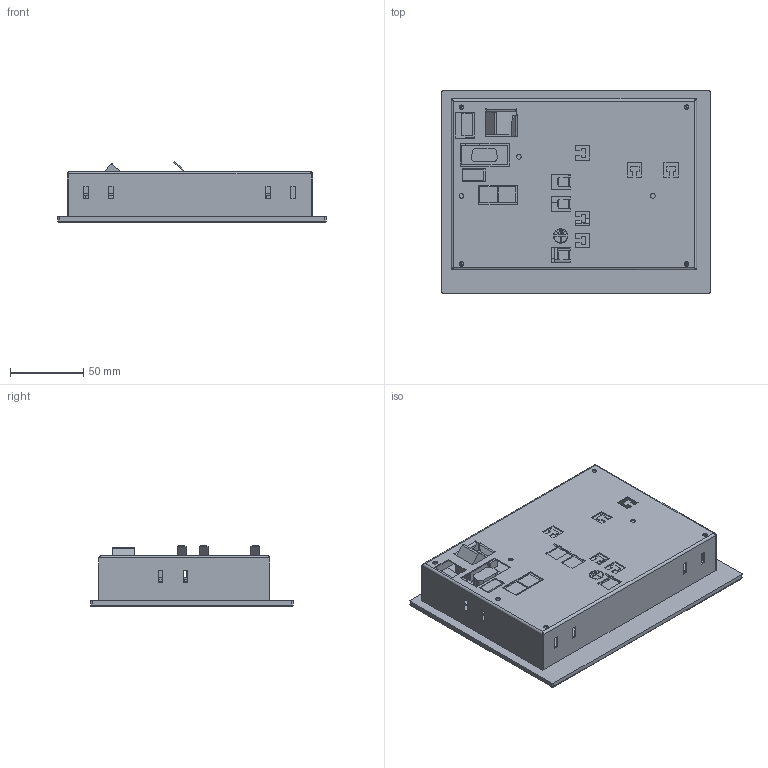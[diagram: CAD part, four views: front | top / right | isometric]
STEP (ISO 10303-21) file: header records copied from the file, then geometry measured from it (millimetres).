
FILE_DESCRIPTION (( 'STEP AP214' ), '1' );
FILE_NAME ('HZS732 support.STEP', '2016-06-01T09:09:51', ( 'SIGMATEK GmbH & Co KG' ), ( 'SIGMATEK GmbH & Co KG' ), 'SwSTEP 2.0', 'SolidWorks 2015', '' );
FILE_SCHEMA (( 'AUTOMOTIVE_DESIGN' ));
Length unit declared in the file: millimetre
Products named in the file (7): Gehäuse HZS7xx support; Front V2.0 HZS732-H; fhl_m3_8; 110802 support; HZS732 support; Display 7 Zoll Multi-Inno_MI0700S4T-3 V1.3_ohne Touchtail
Assembly tree (10 placements, depth 3):
  HZS732 support
    110802 support
    Front V2.0 HZS732-H
      Front V2.0 HZS732-H
      fhl_m3_8  x5
    Gehäuse HZS7xx support
    Display 7 Zoll Multi-Inno_MI0700S4T-3 V1.3_ohne Touchtail
Bounding box: 183.6 x 138.8 x 41.94 mm (x, y, z)
Volume: 206762.3 mm3; surface area: 175437.1 mm2
Topology: 10 solids, 11 shells, 829 faces, 2041 edges, 1305 vertices
Faces by surface type: plane 522, cylinder 238, cone 40, bspline 29
Entity records: 24671 total; most frequent: CARTESIAN_POINT 4548, ORIENTED_EDGE 3734, DIRECTION 3703, EDGE_CURVE 1867, LINE 1435, VECTOR 1435, VERTEX_POINT 1213, AXIS2_PLACEMENT_3D 1134
